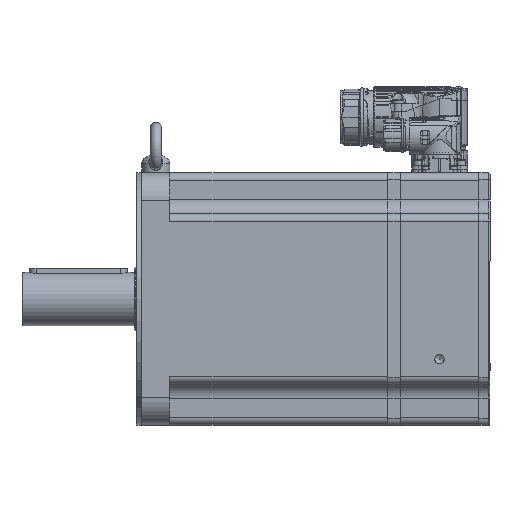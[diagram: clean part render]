
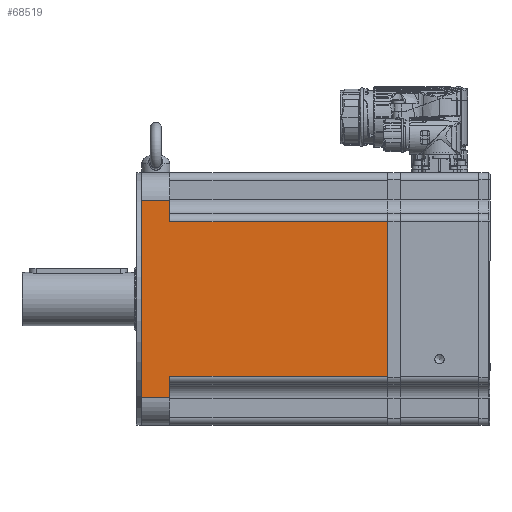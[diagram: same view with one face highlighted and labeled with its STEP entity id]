
A CAD part, left-side view. The second image highlights one B-rep face of the part: STEP entity #68519.
In plain terms, the highlighted planar face has unit normal (-1, 0, 0) as drawn and (1, 0, 0) by its records, which use the part's own axes.
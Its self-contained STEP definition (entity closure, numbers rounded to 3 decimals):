
#2112=PLANE('',#73233);
#7388=LINE('',#144652,#9907);
#7402=LINE('',#144739,#9921);
#7409=LINE('',#144790,#9928);
#7417=LINE('',#144814,#9936);
#7418=LINE('',#144815,#9937);
#7419=LINE('',#144817,#9938);
#7420=LINE('',#144819,#9939);
#7421=LINE('',#144820,#9940);
#9907=VECTOR('',#84820,1000.);
#9921=VECTOR('',#84904,1000.);
#9928=VECTOR('',#84957,1000.);
#9936=VECTOR('',#84981,1000.);
#9937=VECTOR('',#84982,1000.);
#9938=VECTOR('',#84983,1000.);
#9939=VECTOR('',#84984,1000.);
#9940=VECTOR('',#84985,1000.);
#23477=ORIENTED_EDGE('',*,*,#30424,.F.);
#23478=ORIENTED_EDGE('',*,*,#30496,.T.);
#23479=ORIENTED_EDGE('',*,*,#30462,.F.);
#23480=ORIENTED_EDGE('',*,*,#30497,.T.);
#23481=ORIENTED_EDGE('',*,*,#30498,.F.);
#23482=ORIENTED_EDGE('',*,*,#30499,.T.);
#23483=ORIENTED_EDGE('',*,*,#30484,.F.);
#23484=ORIENTED_EDGE('',*,*,#30500,.T.);
#30424=EDGE_CURVE('',#34981,#34982,#7388,.T.);
#30462=EDGE_CURVE('',#35019,#35020,#7402,.T.);
#30484=EDGE_CURVE('',#35041,#35042,#7409,.T.);
#30496=EDGE_CURVE('',#34981,#35020,#7417,.F.);
#30497=EDGE_CURVE('',#35019,#35049,#7418,.T.);
#30498=EDGE_CURVE('',#35050,#35049,#7419,.T.);
#30499=EDGE_CURVE('',#35050,#35042,#7420,.F.);
#30500=EDGE_CURVE('',#35041,#34982,#7421,.T.);
#34981=VERTEX_POINT('',#144651);
#34982=VERTEX_POINT('',#144653);
#35019=VERTEX_POINT('',#144738);
#35020=VERTEX_POINT('',#144740);
#35041=VERTEX_POINT('',#144791);
#35042=VERTEX_POINT('',#144792);
#35049=VERTEX_POINT('',#144816);
#35050=VERTEX_POINT('',#144818);
#40723=EDGE_LOOP('',(#23477,#23478,#23479,#23480,#23481,#23482,#23483,#23484));
#44513=FACE_BOUND('',#40723,.T.);
#68519=ADVANCED_FACE('',(#44513),#2112,.T.);
#73233=AXIS2_PLACEMENT_3D('',#144813,#84979,#84980);
#84820=DIRECTION('',(0.,0.,-1.));
#84904=DIRECTION('',(0.,0.,-1.));
#84957=DIRECTION('',(0.,0.,-1.));
#84979=DIRECTION('',(1.,0.,0.));
#84980=DIRECTION('',(0.,1.,0.));
#84981=DIRECTION('',(0.,1.,0.));
#84982=DIRECTION('',(0.,-1.,0.));
#84983=DIRECTION('',(0.,0.,1.));
#84984=DIRECTION('',(0.,-1.,0.));
#84985=DIRECTION('',(0.,1.,0.));
#144651=CARTESIAN_POINT('',(90.,176.8,55.2));
#144652=CARTESIAN_POINT('',(90.,176.8,-90.));
#144653=CARTESIAN_POINT('',(90.,176.8,-55.2));
#144738=CARTESIAN_POINT('',(90.,21.3,70.));
#144739=CARTESIAN_POINT('',(90.,21.3,-90.));
#144740=CARTESIAN_POINT('',(90.,21.3,55.2));
#144790=CARTESIAN_POINT('',(90.,21.3,-90.));
#144791=CARTESIAN_POINT('',(90.,21.3,-55.2));
#144792=CARTESIAN_POINT('',(90.,21.3,-70.));
#144813=CARTESIAN_POINT('',(90.,491.763,-90.));
#144814=CARTESIAN_POINT('',(90.,491.763,55.2));
#144815=CARTESIAN_POINT('',(90.,491.763,70.));
#144816=CARTESIAN_POINT('',(90.,1.3,70.));
#144817=CARTESIAN_POINT('',(90.,1.3,-90.));
#144818=CARTESIAN_POINT('',(90.,1.3,-70.));
#144819=CARTESIAN_POINT('',(90.,491.763,-70.));
#144820=CARTESIAN_POINT('',(90.,491.763,-55.2));
